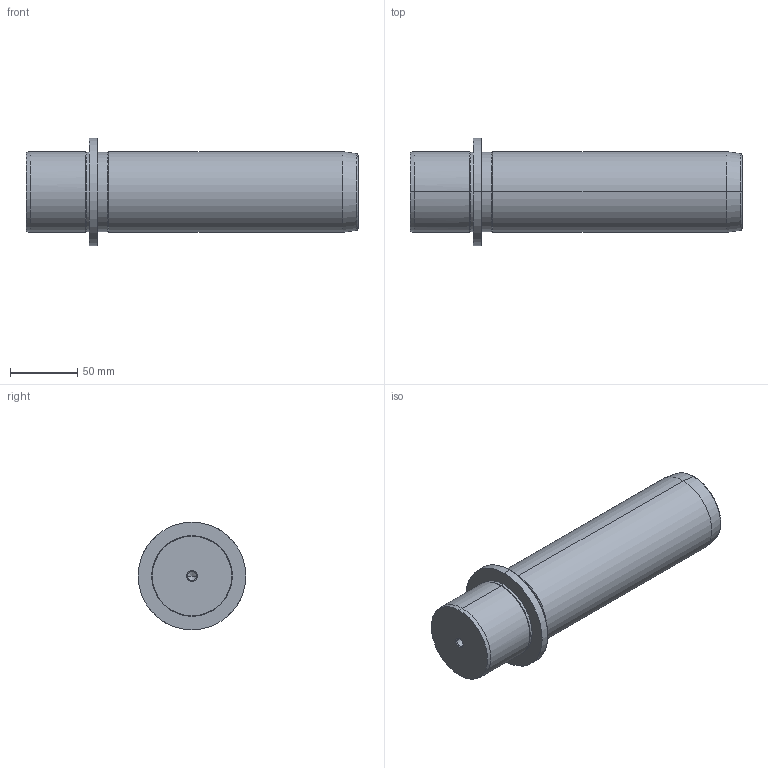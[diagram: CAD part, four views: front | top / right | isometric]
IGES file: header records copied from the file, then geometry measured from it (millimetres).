
Start section: START RECORD GO HERE.
Global section: file name: 718-60x200.igs; native system: DASSAULT SYSTEMES CATIA V5 R20 - www.3ds.com; preprocessor: CATIA Version 5 Release 20 ; author: Utente; organization: NB04-ASUS; date: 20210102.131200; units: millimetre
Bounding box: 247 x 80 x 80 mm (x, y, z)
Surface area: 57736.7 mm2 (no closed solid volume)
Topology: 0 solids, 0 shells, 36 faces, 196 edges, 192 vertices
Faces by surface type: revolution 32, plane 4
